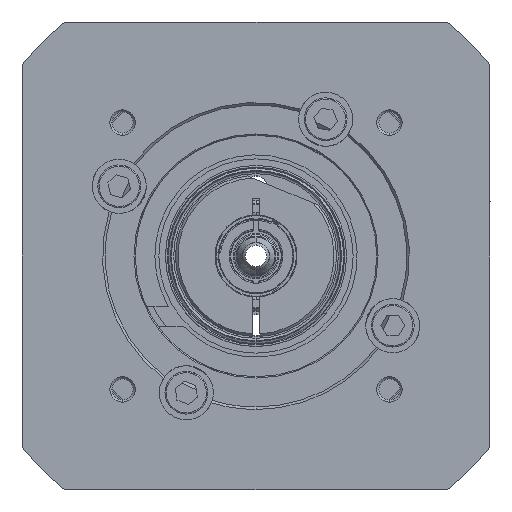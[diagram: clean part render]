
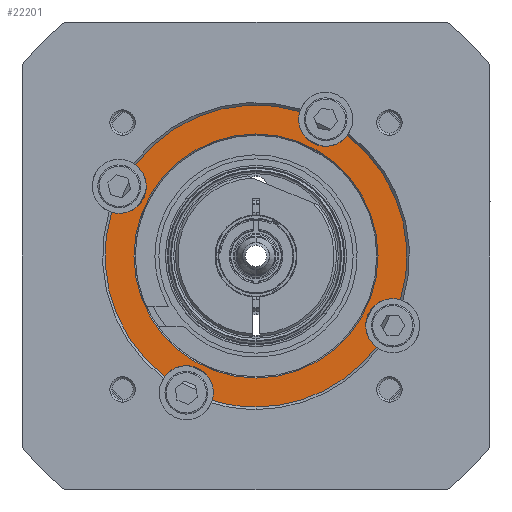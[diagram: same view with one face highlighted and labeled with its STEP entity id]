
A CAD part, left-side view. The second image highlights one B-rep face of the part: STEP entity #22201.
In plain terms, the highlighted planar face has unit normal (-1, 0, 0).
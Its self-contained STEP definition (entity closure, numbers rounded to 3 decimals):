
#31 = EDGE_CURVE ( 'NONE', #34026, #5549, #50925, .T. ) ;
#832 = DIRECTION ( 'NONE',  ( -1., 0., 0. ) ) ;
#1065 = DIRECTION ( 'NONE',  ( 0., 0., -1. ) ) ;
#1092 = EDGE_CURVE ( 'NONE', #55470, #41935, #10627, .T. ) ;
#1359 = CARTESIAN_POINT ( 'NONE',  ( -134.5, 28.712, 8.696 ) ) ;
#1362 = ORIENTED_EDGE ( 'NONE', *, *, #21340, .F. ) ;
#1577 = CARTESIAN_POINT ( 'NONE',  ( -134.5, 0., -30. ) ) ;
#2437 = AXIS2_PLACEMENT_3D ( 'NONE', #20104, #15130, #33111 ) ;
#2991 = ORIENTED_EDGE ( 'NONE', *, *, #46885, .T. ) ;
#3322 = EDGE_CURVE ( 'NONE', #56038, #5549, #31561, .T. ) ;
#4976 = CARTESIAN_POINT ( 'NONE',  ( -134.5, 27.176, 13.847 ) ) ;
#5136 = CARTESIAN_POINT ( 'NONE',  ( -134.5, -28.712, -8.696 ) ) ;
#5310 = CARTESIAN_POINT ( 'NONE',  ( -134.5, -27.176, -13.847 ) ) ;
#5549 = VERTEX_POINT ( 'NONE', #52308 ) ;
#6140 = DIRECTION ( 'NONE',  ( 0., 0., -1. ) ) ;
#6348 = DIRECTION ( 'NONE',  ( 0., 0., -1. ) ) ;
#6459 = FACE_OUTER_BOUND ( 'NONE', #54471, .T. ) ;
#6957 = ORIENTED_EDGE ( 'NONE', *, *, #39916, .T. ) ;
#7195 = CIRCLE ( 'NONE', #2437, 30. ) ;
#7415 = DIRECTION ( 'NONE',  ( 0., 0., -1. ) ) ;
#8047 = CARTESIAN_POINT ( 'NONE',  ( -134.5, 27.176, 8.472 ) ) ;
#8823 = DIRECTION ( 'NONE',  ( 0., 0., -1. ) ) ;
#9192 = DIRECTION ( 'NONE',  ( -1., 0., 0. ) ) ;
#10020 = CARTESIAN_POINT ( 'NONE',  ( -134.5, 0., 0. ) ) ;
#10387 = CIRCLE ( 'NONE', #27325, 30. ) ;
#10390 = CARTESIAN_POINT ( 'NONE',  ( -134.5, -27.176, -13.847 ) ) ;
#10627 = CIRCLE ( 'NONE', #28502, 5.375 ) ;
#10988 = CARTESIAN_POINT ( 'NONE',  ( -134.5, -13.847, 27.176 ) ) ;
#11254 = AXIS2_PLACEMENT_3D ( 'NONE', #49708, #49412, #8823 ) ;
#11655 = CIRCLE ( 'NONE', #54896, 5.375 ) ;
#11858 = CIRCLE ( 'NONE', #34450, 5.375 ) ;
#11955 = DIRECTION ( 'NONE',  ( 0., 0., -1. ) ) ;
#11995 = VERTEX_POINT ( 'NONE', #27768 ) ;
#12703 = DIRECTION ( 'NONE',  ( 1., 0., 0. ) ) ;
#13546 = DIRECTION ( 'NONE',  ( 0., 0., -1. ) ) ;
#13854 = ORIENTED_EDGE ( 'NONE', *, *, #31, .T. ) ;
#14235 = DIRECTION ( 'NONE',  ( -1., 0., 0. ) ) ;
#14944 = AXIS2_PLACEMENT_3D ( 'NONE', #19294, #41958, #18727 ) ;
#15130 = DIRECTION ( 'NONE',  ( -1., 0., 0. ) ) ;
#15576 = DIRECTION ( 'NONE',  ( -1., 0., 0. ) ) ;
#15706 = EDGE_LOOP ( 'NONE', ( #33791, #6957 ) ) ;
#15950 = AXIS2_PLACEMENT_3D ( 'NONE', #51704, #47263, #6348 ) ;
#17270 = ORIENTED_EDGE ( 'NONE', *, *, #17573, .F. ) ;
#17573 = EDGE_CURVE ( 'NONE', #41339, #24786, #22522, .T. ) ;
#18273 = AXIS2_PLACEMENT_3D ( 'NONE', #5310, #9192, #54239 ) ;
#18569 = AXIS2_PLACEMENT_3D ( 'NONE', #44324, #57073, #38785 ) ;
#18727 = DIRECTION ( 'NONE',  ( 0., 0., -1. ) ) ;
#19082 = CIRCLE ( 'NONE', #36980, 5.375 ) ;
#19294 = CARTESIAN_POINT ( 'NONE',  ( -134.5, 0., 0. ) ) ;
#20104 = CARTESIAN_POINT ( 'NONE',  ( -134.5, 0., 0. ) ) ;
#21296 = ORIENTED_EDGE ( 'NONE', *, *, #52726, .F. ) ;
#21340 = EDGE_CURVE ( 'NONE', #46919, #25968, #11858, .T. ) ;
#22201 = ADVANCED_FACE ( 'NONE', ( #6459, #32706 ), #23823, .T. ) ;
#22314 = CARTESIAN_POINT ( 'NONE',  ( -134.5, 0., 0. ) ) ;
#22522 = CIRCLE ( 'NONE', #15950, 5.375 ) ;
#22986 = EDGE_CURVE ( 'NONE', #37636, #55470, #38533, .T. ) ;
#23217 = CIRCLE ( 'NONE', #45797, 24.25 ) ;
#23713 = ORIENTED_EDGE ( 'NONE', *, *, #56828, .T. ) ;
#23823 = PLANE ( 'NONE',  #56253 ) ;
#24786 = VERTEX_POINT ( 'NONE', #8047 ) ;
#25699 = ORIENTED_EDGE ( 'NONE', *, *, #48872, .T. ) ;
#25767 = ORIENTED_EDGE ( 'NONE', *, *, #3322, .F. ) ;
#25968 = VERTEX_POINT ( 'NONE', #35909 ) ;
#26071 = ORIENTED_EDGE ( 'NONE', *, *, #49665, .F. ) ;
#27174 = CIRCLE ( 'NONE', #14944, 30. ) ;
#27325 = AXIS2_PLACEMENT_3D ( 'NONE', #41276, #27760, #45699 ) ;
#27491 = CARTESIAN_POINT ( 'NONE',  ( -134.5, 13.847, -27.176 ) ) ;
#27760 = DIRECTION ( 'NONE',  ( -1., 0., 0. ) ) ;
#27768 = CARTESIAN_POINT ( 'NONE',  ( -134.5, 0., -24.25 ) ) ;
#28351 = DIRECTION ( 'NONE',  ( 0., 0., -1. ) ) ;
#28502 = AXIS2_PLACEMENT_3D ( 'NONE', #27491, #14235, #55181 ) ;
#29121 = AXIS2_PLACEMENT_3D ( 'NONE', #53630, #12703, #7415 ) ;
#29403 = CARTESIAN_POINT ( 'NONE',  ( -134.5, 0., 0. ) ) ;
#31561 = CIRCLE ( 'NONE', #18273, 5.375 ) ;
#32002 = EDGE_CURVE ( 'NONE', #34682, #56038, #19082, .T. ) ;
#32639 = DIRECTION ( 'NONE',  ( 1., 0., 0. ) ) ;
#32706 = FACE_BOUND ( 'NONE', #15706, .T. ) ;
#33111 = DIRECTION ( 'NONE',  ( 0., 0., -1. ) ) ;
#33791 = ORIENTED_EDGE ( 'NONE', *, *, #46698, .T. ) ;
#33976 = DIRECTION ( 'NONE',  ( 0., 0., -1. ) ) ;
#34026 = VERTEX_POINT ( 'NONE', #1577 ) ;
#34065 = DIRECTION ( 'NONE',  ( -1., 0., 0. ) ) ;
#34080 = CARTESIAN_POINT ( 'NONE',  ( -134.5, -18.117, 23.912 ) ) ;
#34450 = AXIS2_PLACEMENT_3D ( 'NONE', #10988, #46580, #33976 ) ;
#34682 = VERTEX_POINT ( 'NONE', #5136 ) ;
#35909 = CARTESIAN_POINT ( 'NONE',  ( -134.5, -13.847, 21.801 ) ) ;
#36223 = CARTESIAN_POINT ( 'NONE',  ( -134.5, 13.847, -21.801 ) ) ;
#36733 = AXIS2_PLACEMENT_3D ( 'NONE', #56736, #34065, #11955 ) ;
#36980 = AXIS2_PLACEMENT_3D ( 'NONE', #10390, #46283, #28351 ) ;
#37636 = VERTEX_POINT ( 'NONE', #40882 ) ;
#38533 = CIRCLE ( 'NONE', #11254, 5.375 ) ;
#38785 = DIRECTION ( 'NONE',  ( 0., 0., -1. ) ) ;
#39649 = AXIS2_PLACEMENT_3D ( 'NONE', #29403, #15576, #6140 ) ;
#39916 = EDGE_CURVE ( 'NONE', #57897, #11995, #56438, .T. ) ;
#40412 = CARTESIAN_POINT ( 'NONE',  ( -134.5, -27.176, -8.472 ) ) ;
#40882 = CARTESIAN_POINT ( 'NONE',  ( -134.5, 8.696, -28.712 ) ) ;
#41276 = CARTESIAN_POINT ( 'NONE',  ( -134.5, 0., 0. ) ) ;
#41339 = VERTEX_POINT ( 'NONE', #1359 ) ;
#41779 = DIRECTION ( 'NONE',  ( -1., 0., 0. ) ) ;
#41935 = VERTEX_POINT ( 'NONE', #42640 ) ;
#41958 = DIRECTION ( 'NONE',  ( -1., 0., 0. ) ) ;
#42640 = CARTESIAN_POINT ( 'NONE',  ( -134.5, 18.117, -23.912 ) ) ;
#43806 = ORIENTED_EDGE ( 'NONE', *, *, #22986, .F. ) ;
#44324 = CARTESIAN_POINT ( 'NONE',  ( -134.5, 0., 0. ) ) ;
#45687 = ORIENTED_EDGE ( 'NONE', *, *, #32002, .F. ) ;
#45699 = DIRECTION ( 'NONE',  ( 0., 0., -1. ) ) ;
#45797 = AXIS2_PLACEMENT_3D ( 'NONE', #22314, #32639, #1065 ) ;
#46283 = DIRECTION ( 'NONE',  ( -1., 0., 0. ) ) ;
#46580 = DIRECTION ( 'NONE',  ( -1., 0., 0. ) ) ;
#46698 = EDGE_CURVE ( 'NONE', #11995, #57897, #23217, .T. ) ;
#46885 = EDGE_CURVE ( 'NONE', #46919, #53477, #54333, .T. ) ;
#46919 = VERTEX_POINT ( 'NONE', #52641 ) ;
#47263 = DIRECTION ( 'NONE',  ( -1., 0., 0. ) ) ;
#48872 = EDGE_CURVE ( 'NONE', #37636, #34026, #27174, .T. ) ;
#49412 = DIRECTION ( 'NONE',  ( -1., 0., 0. ) ) ;
#49665 = EDGE_CURVE ( 'NONE', #25968, #51954, #55527, .T. ) ;
#49708 = CARTESIAN_POINT ( 'NONE',  ( -134.5, 13.847, -27.176 ) ) ;
#50925 = CIRCLE ( 'NONE', #39649, 30. ) ;
#51704 = CARTESIAN_POINT ( 'NONE',  ( -134.5, 27.176, 13.847 ) ) ;
#51954 = VERTEX_POINT ( 'NONE', #34080 ) ;
#52308 = CARTESIAN_POINT ( 'NONE',  ( -134.5, -23.912, -18.117 ) ) ;
#52501 = CARTESIAN_POINT ( 'NONE',  ( -134.5, 0., 24.25 ) ) ;
#52641 = CARTESIAN_POINT ( 'NONE',  ( -134.5, -8.696, 28.712 ) ) ;
#52726 = EDGE_CURVE ( 'NONE', #24786, #53477, #11655, .T. ) ;
#53477 = VERTEX_POINT ( 'NONE', #57700 ) ;
#53630 = CARTESIAN_POINT ( 'NONE',  ( -134.5, 0., 0. ) ) ;
#54098 = ORIENTED_EDGE ( 'NONE', *, *, #1092, .F. ) ;
#54239 = DIRECTION ( 'NONE',  ( 0., 0., -1. ) ) ;
#54333 = CIRCLE ( 'NONE', #18569, 30. ) ;
#54471 = EDGE_LOOP ( 'NONE', ( #1362, #2991, #21296, #17270, #54901, #54098, #43806, #25699, #13854, #25767, #45687, #23713, #26071 ) ) ;
#54896 = AXIS2_PLACEMENT_3D ( 'NONE', #4976, #832, #13546 ) ;
#54901 = ORIENTED_EDGE ( 'NONE', *, *, #54929, .T. ) ;
#54929 = EDGE_CURVE ( 'NONE', #41339, #41935, #7195, .T. ) ;
#55181 = DIRECTION ( 'NONE',  ( 0., 0., -1. ) ) ;
#55470 = VERTEX_POINT ( 'NONE', #36223 ) ;
#55527 = CIRCLE ( 'NONE', #36733, 5.375 ) ;
#56038 = VERTEX_POINT ( 'NONE', #40412 ) ;
#56253 = AXIS2_PLACEMENT_3D ( 'NONE', #10020, #41779, #56851 ) ;
#56438 = CIRCLE ( 'NONE', #29121, 24.25 ) ;
#56736 = CARTESIAN_POINT ( 'NONE',  ( -134.5, -13.847, 27.176 ) ) ;
#56828 = EDGE_CURVE ( 'NONE', #34682, #51954, #10387, .T. ) ;
#56851 = DIRECTION ( 'NONE',  ( 0., 0., -1. ) ) ;
#57073 = DIRECTION ( 'NONE',  ( -1., 0., 0. ) ) ;
#57700 = CARTESIAN_POINT ( 'NONE',  ( -134.5, 23.912, 18.117 ) ) ;
#57897 = VERTEX_POINT ( 'NONE', #52501 ) ;
